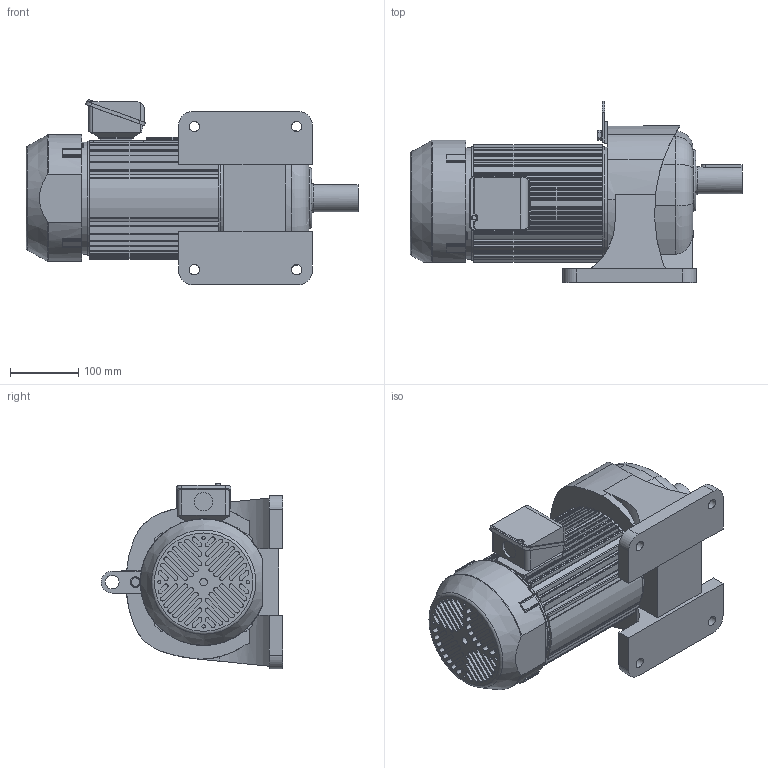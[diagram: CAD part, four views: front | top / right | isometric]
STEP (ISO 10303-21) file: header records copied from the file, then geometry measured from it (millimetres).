
FILE_DESCRIPTION( ( 'STEP AP203' ), ' ' );
FILE_NAME( 'p:/temp/worker_45/3532_3148/app_71_12017032209201643527169260eae72_000000_00_00_000000/format_0/G3L40N5N-IPB220NT.stp', '2017-03-22T08:20:18', ( '' ), ( '' ), ' ', 'PARTsolutions', ' ' );
FILE_SCHEMA( ( 'CONFIG_CONTROL_DESIGN' ) );
Length unit declared in the file: millimetre
Products named in the file (9): G3L40N5N-IPB220NT; _GL40; _SP040C; HI_T220; HI_1522B; _Brake lead wire; _T-BOX010; _KEY 40; _40-4.5-hook
Assembly tree (8 placements, depth 2):
  G3L40N5N-IPB220NT
    _GL40
    _SP040C
    HI_T220
    HI_1522B
    _Brake lead wire
    _T-BOX010
    _KEY 40
    _40-4.5-hook
Bounding box: 487 x 266 x 272.02 mm (x, y, z)
Volume: 12931345.6 mm3; surface area: 677858.6 mm2
Topology: 8 solids, 8 shells, 796 faces, 2144 edges, 1419 vertices
Faces by surface type: cylinder 407, plane 365, torus 17, cone 7
Full cylindrical faces by diameter (mm): 2 x4, 4.8 x4, 6.4 x1, 11 x1, 15 x4, 15.4 x1, 20 x1, 27 x1, 40 x1, 42 x1, 90 x1, 164 x1, 165 x1, 167 x2
Entity records: 26030 total; most frequent: CARTESIAN_POINT 5278, DIRECTION 4452, ORIENTED_EDGE 4204, EDGE_CURVE 2102, AXIS2_PLACEMENT_3D 1626, VERTEX_POINT 1408, LINE 1200, VECTOR 1200
